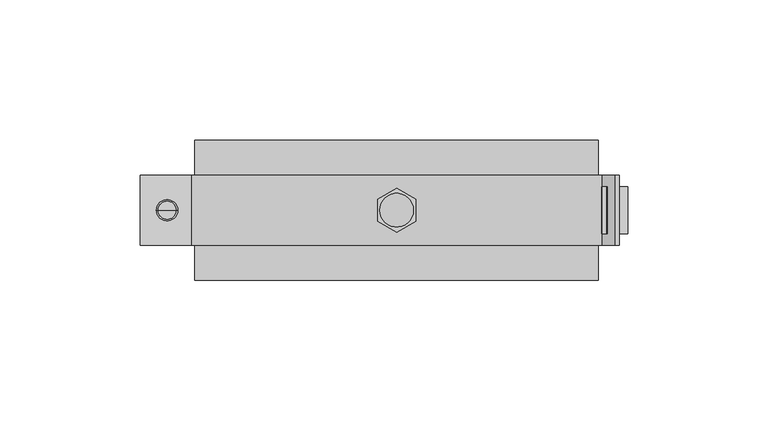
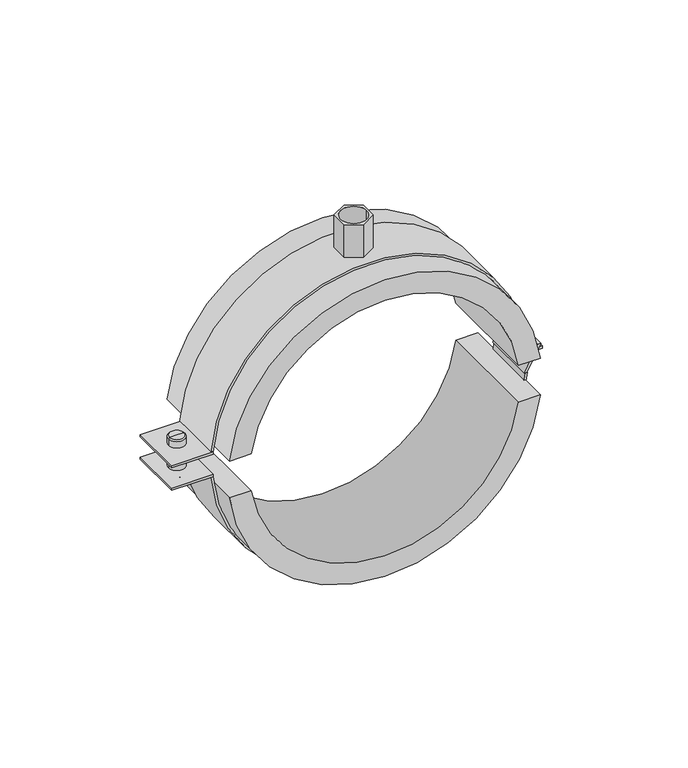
"""IFC4 building model written with IfcOpenShell, lengths in millimetres: unitary equipment geometry, NLRS_52_ME_UN_Geberit beugel geïsoleerd, met draadbus M10 _ M12_PRO_334350 : DN125-150 - OD."""

from ifc_helpers import new_model, si_unit, point, frame, frame_2d, origin, origin_2d, place, context, project, spatial, polyline, circle_curve, ellipse_curve, trimmed, segment, composite_curve, outline, extrude, source, transform, mapped, element, save
from ifc_brep_helpers import plane_surface, cylinder_surface, revolved_surface, advanced_brep


def unitary_equipment_8c8ec3e9(model_context):
    return source(origin(), model_context, "Body", "SolidModel", [
        extrude(outline(polyline([(-6.75, -3.8971143), (-6.75, 3.8971143), (0.0, 7.7942286), (6.75, 3.8971143), (6.75, -3.8971143), (0.0, -7.7942286), (-6.75, -3.8971143)]), holes=[composite_curve([segment(trimmed(circle_curve(origin_2d(), 6.0), [point((-6.0, 0.0))], [point((6.0, 0.0))], True, "CARTESIAN"), True, "CONTINUOUS"), segment(trimmed(circle_curve(origin_2d(), 6.0), [point((6.0, 0.0))], [point((-6.0, 0.0))], True, "CARTESIAN"), True, "CONTINUOUS")], self_intersect=False)]), frame((0.0, 0.0, 62.5), z_axis=(0.0, 0.0, 1.0), x_axis=(1.0, 0.0, 0.0)), (0.0, 0.0, 1.0), 26.5),
        extrude(outline(polyline([(6.0192388, 78.0871572), (-6.0, 71.7), (-6.0, 73.0277555), (5.9947952, 79.5010635), (6.0192388, 78.0871572)])), frame((0.0, -12.5, 0.0), z_axis=(0.0, 1.0, 0.0), x_axis=(0.0, 0.0, 1.0)), (0.0, 0.0, 1.0), 25.0),
        extrude(outline(polyline([(-72.2512976, 12.5), (-72.2512976, -12.5), (-91.5, -12.5), (-91.5, 12.5), (-72.2512976, 12.5)])), frame((0.0, 0.0, 5.0), z_axis=(0.0, 0.0, 1.0), x_axis=(1.0, 0.0, 0.0)), (0.0, 0.0, 1.0), 1.0),
        extrude(outline(polyline([(-72.2512976, 12.5), (-72.2512976, -12.5), (-91.5, -12.5), (-91.5, 12.5), (-72.2512976, 12.5)])), frame((0.0, 0.0, -6.0), z_axis=(0.0, 0.0, 1.0), x_axis=(1.0, 0.0, 0.0)), (0.0, 0.0, 1.0), 1.0),
        extrude(outline(composite_curve([segment(polyline([(2.9889938, 73.25552), (6.0, 73.25552), (6.0, 72.2512976), (0.0, 72.2512976), (0.0, 82.5), (1.3, 82.5), (1.3, 74.9445138)]), True, "CONTINUOUS"), segment(trimmed(circle_curve(frame_2d((2.9889938, 74.9445138)), 1.6889938), [point((1.3, 74.9445138))], [point((2.9889938, 73.25552))], True, "CARTESIAN"), True, "CONTINUOUS")], self_intersect=False)), frame((0.0, -8.3424324, 0.0), z_axis=(0.0, 1.0, 0.0), x_axis=(0.0, 0.0, 1.0)), (0.0, 0.0, 1.0), 16.6903518),
        extrude(outline(composite_curve([segment(polyline([(-6.0, 73.2546927), (-6.0, 72.2512976)]), True, "CONTINUOUS"), segment(trimmed(circle_curve(origin_2d(), 72.5), [point((-6.0, 72.2512976))], [point((-6.0, -72.2512976))], True, "CARTESIAN"), True, "CONTINUOUS"), segment(polyline([(-6.0, -72.2512976), (-6.0, -73.2546927)]), True, "CONTINUOUS"), segment(trimmed(circle_curve(origin_2d(), 73.5), [point((-6.0, -73.2546927))], [point((-6.0, 73.2546927))], False, "CARTESIAN"), True, "CONTINUOUS")], self_intersect=False)), frame((0.0, -12.5, 0.0), z_axis=(0.0, 1.0, 0.0), x_axis=(0.0, 0.0, 1.0)), (0.0, 0.0, 1.0), 25.0),
        extrude(outline(composite_curve([segment(polyline([(6.0, -73.2546927), (6.0, -72.2512976)]), True, "CONTINUOUS"), segment(trimmed(circle_curve(origin_2d(), 72.5), [point((6.0, -72.2512976))], [point((6.0, 72.2512976))], True, "CARTESIAN"), True, "CONTINUOUS"), segment(polyline([(6.0, 72.2512976), (6.0, 73.2546927)]), True, "CONTINUOUS"), segment(trimmed(circle_curve(origin_2d(), 73.5), [point((6.0, 73.2546927))], [point((6.0, -73.2546927))], False, "CARTESIAN"), True, "CONTINUOUS")], self_intersect=False)), frame((0.0, -12.5, 0.0), z_axis=(0.0, 1.0, 0.0), x_axis=(0.0, 0.0, 1.0)), (0.0, 0.0, 1.0), 25.0),
        advanced_brep(
        [(-76.6282232, 0.0, -6.0), (-87.1230743, 0.0, -6.0), (-85.6756488, 0.0, -6.0), (-78.0756488, 0.0, -6.0), (-77.9974128, 0.0, -7.897503), (-85.7538848, 0.0, -7.897503), (-81.8756488, 0.0, -7.897503), (-78.640713, 0.0, 10.1139206), (-85.1105845, 0.0, 10.1139206), (-81.8756488, 0.0, 10.1139206), (-78.0756488, 0.0, 9.5488563), (-85.6756488, 0.0, 9.5488563)],
        [
            (0, 1, circle_curve(frame((-81.8756488, 0.0, -6.0), z_axis=(0.0, 0.0, 1.0), x_axis=(-1.0, 0.0, 0.0)), 5.2474255)),
            (1, 2),
            (2, 3, circle_curve(frame((-81.8756488, 0.0, -6.0), z_axis=(0.0, 0.0, -1.0), x_axis=(-1.0, 0.0, 0.0)), 3.8)),
            (3, 0),
            (1, 0, circle_curve(frame((-81.8756488, 0.0, -6.0), z_axis=(0.0, 0.0, 1.0), x_axis=(-1.0, 0.0, 0.0)), 5.2474255)),
            (3, 2, circle_curve(frame((-81.8756488, 0.0, -6.0), z_axis=(0.0, 0.0, -1.0), x_axis=(-1.0, 0.0, 0.0)), 3.8)),
            (4, 5, circle_curve(frame((-81.8756488, 0.0, -7.897503), z_axis=(0.0, 0.0, 1.0), x_axis=(-1.0, 0.0, 0.0)), 3.878236)),
            (5, 1, circle_curve(frame((-85.7538848, 0.0, -6.4547655), z_axis=(0.0, 1.0, 0.0), x_axis=(-1.0, 0.0, 0.0)), 1.4427376)),
            (0, 4, circle_curve(frame((-77.9974128, 0.0, -6.4547655), z_axis=(0.0, 1.0, 0.0), x_axis=(1.0, 0.0, 0.0)), 1.4427376)),
            (5, 4, circle_curve(frame((-81.8756488, 0.0, -7.897503), z_axis=(0.0, 0.0, 1.0), x_axis=(-1.0, 0.0, 0.0)), 3.878236)),
            (6, 5),
            (4, 6),
            (7, 8, circle_curve(frame((-81.8756488, 0.0, 10.1139206), z_axis=(0.0, 0.0, 1.0), x_axis=(-1.0, 0.0, 0.0)), 3.2349358)),
            (8, 9),
            (9, 7),
            (8, 7, circle_curve(frame((-81.8756488, 0.0, 10.1139206), z_axis=(0.0, 0.0, 1.0), x_axis=(-1.0, 0.0, 0.0)), 3.2349358)),
            (10, 11, circle_curve(frame((-81.8756488, 0.0, 9.5488563), z_axis=(0.0, 0.0, 1.0), x_axis=(-1.0, 0.0, 0.0)), 3.8)),
            (11, 8),
            (7, 10),
            (11, 10, circle_curve(frame((-81.8756488, 0.0, 9.5488563), z_axis=(0.0, 0.0, 1.0), x_axis=(-1.0, 0.0, 0.0)), 3.8)),
            (2, 11),
            (10, 3),
        ],
        [
            plane_surface(frame((-81.8756488, 0.0, -6.0), z_axis=(0.0, 0.0, 1.0), x_axis=(-1.0, 0.0, 0.0))),
            revolved_surface(trimmed(ellipse_curve(frame((-85.7538848, 0.0, -6.4547655), z_axis=(0.0, -1.0, 0.0), x_axis=(-1.0, 0.0, 0.0)), 1.4427376, 1.4427376), [point((-87.1230743, 0.0, -6.0))], [point((-85.7538848, 0.0, -7.897503))], True, "CARTESIAN"), (-81.8756488, 0.0, 7.4576706), (0.0, 0.0, -1.0)),
            plane_surface(frame((-81.8756488, 0.0, -7.897503), z_axis=(0.0, 0.0, -1.0), x_axis=(-1.0, 0.0, 0.0))),
            plane_surface(frame((-81.8756488, 0.0, 10.1139206), z_axis=(0.0, 0.0, 1.0), x_axis=(-1.0, 0.0, 0.0))),
            revolved_surface(polyline([(-85.1105845, 0.0, 10.1139206), (-85.6756488, 0.0, 9.5488563)]), (-81.8756488, 0.0, 7.4576706), (0.0, 0.0, -1.0)),
            cylinder_surface(frame((-81.8756488, 0.0, 7.4576706), z_axis=(0.0, 0.0, -1.0), x_axis=(-1.0, 0.0, 0.0)), 3.8),
        ],
        [
            (0, [[1, 2, 3, 4]]),
            (0, [[5, -4, 6, -2]]),
            (1, [[7, 8, -1, 9]]),
            (1, [[10, -9, -5, -8]]),
            (2, [[11, -7, 12]]),
            (2, [[-12, -10, -11]]),
            (3, [[13, 14, 15]]),
            (3, [[16, -15, -14]]),
            (4, [[17, 18, -13, 19]]),
            (4, [[20, -19, -16, -18]]),
            (5, [[-3, 21, -17, 22]]),
            (5, [[-6, -22, -20, -21]]),
        ],
    ),
        extrude(outline(composite_curve([segment(trimmed(circle_curve(origin_2d(), 62.5), [point((9.0, -61.8486055))], [point((9.0, 61.8486055))], True, "CARTESIAN"), True, "CONTINUOUS"), segment(polyline([(9.0, 61.8486055), (9.0, 71.9392104)]), True, "CONTINUOUS"), segment(trimmed(circle_curve(origin_2d(), 72.5), [point((9.0, 71.9392104))], [point((9.0, -71.9392104))], False, "CARTESIAN"), True, "CONTINUOUS"), segment(polyline([(9.0, -71.9392104), (9.0, -61.8486055)]), True, "CONTINUOUS")], self_intersect=False)), frame((0.0, -25.0, 0.0), z_axis=(0.0, 1.0, 0.0), x_axis=(0.0, 0.0, 1.0)), (0.0, 0.0, 1.0), 50.0),
        extrude(outline(composite_curve([segment(trimmed(circle_curve(origin_2d(), 62.5), [point((-9.0, 61.8486055))], [point((-9.0, -61.8486055))], True, "CARTESIAN"), True, "CONTINUOUS"), segment(polyline([(-9.0, -61.8486055), (-9.0, -71.9392104)]), True, "CONTINUOUS"), segment(trimmed(circle_curve(origin_2d(), 72.5), [point((-9.0, -71.9392104))], [point((-9.0, 71.9392104))], False, "CARTESIAN"), True, "CONTINUOUS"), segment(polyline([(-9.0, 71.9392104), (-9.0, 61.8486055)]), True, "CONTINUOUS")], self_intersect=False)), frame((0.0, -25.0, 0.0), z_axis=(0.0, 1.0, 0.0), x_axis=(0.0, 0.0, 1.0)), (0.0, 0.0, 1.0), 50.0),
    ])


if __name__ == "__main__":
    model = new_model("IFC4")
    model_context = context("Model", 3, world=origin())
    ifc_project = project(units=[si_unit("LENGTHUNIT", "METRE", prefix="MILLI")], contexts=[model_context])
    site = spatial("IfcSite", under=ifc_project)
    building = spatial("IfcBuilding", under=site)
    placement = place(None, origin())
    unitary_equipment_shape = unitary_equipment_8c8ec3e9(model_context)
    element("IfcUnitaryEquipment", 1, ObjectType="NLRS_52_ME_UN_Geberit beugel geïsoleerd, met draadbus M10 _ M12_PRO_334350 : DN125-150 - OD", at=placement, inside=building, context=model_context, shape_type="MappedRepresentation", body=[
        mapped(unitary_equipment_shape, transform((0.0, 0.0, 0.0), x_axis=(1.0, 0.0, 0.0), y_axis=(0.0, 1.0, 0.0), z_axis=(0.0, 0.0, 1.0))),
    ])
    save(model, "model.ifc")
